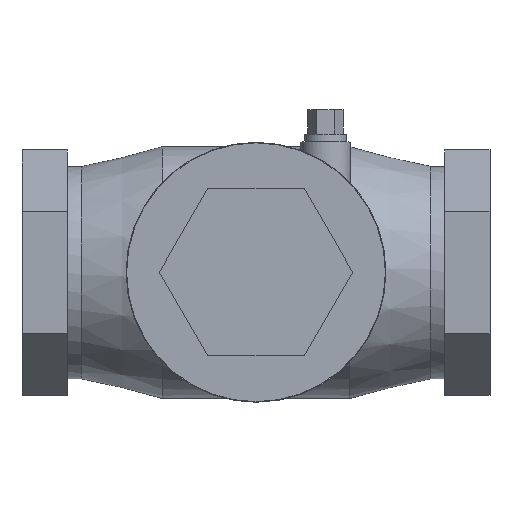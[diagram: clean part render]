
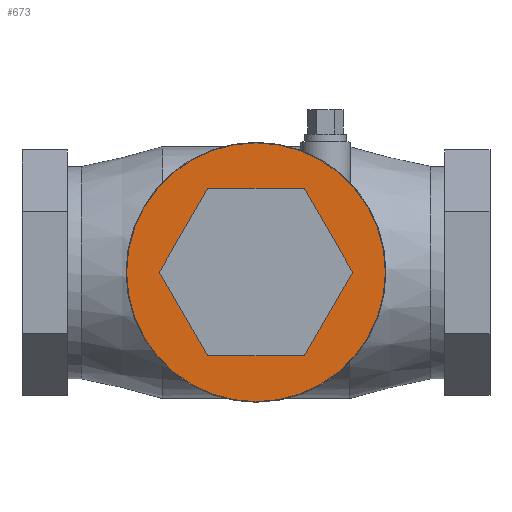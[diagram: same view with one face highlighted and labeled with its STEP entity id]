
A CAD part, top view. The second image highlights one B-rep face of the part: STEP entity #673.
In plain terms, the highlighted planar face has unit normal (0, 0, 1).
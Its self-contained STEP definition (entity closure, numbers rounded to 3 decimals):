
#673 = ADVANCED_FACE('',(#674,#714),#687,.T.);
#674 = FACE_BOUND('',#675,.T.);
#675 = EDGE_LOOP('',(#676));
#676 = ORIENTED_EDGE('',*,*,#677,.F.);
#677 = EDGE_CURVE('',#678,#678,#680,.T.);
#678 = VERTEX_POINT('',#679);
#679 = CARTESIAN_POINT('',(3.665,0.,2.238));
#680 = SURFACE_CURVE('',#681,(#686,#702),.PCURVE_S1.);
#681 = CIRCLE('',#682,1.305);
#682 = AXIS2_PLACEMENT_3D('',#683,#684,#685);
#683 = CARTESIAN_POINT('',(2.36,0.,2.238));
#684 = DIRECTION('',(0.,0.,-1.));
#685 = DIRECTION('',(1.,0.,0.));
#686 = PCURVE('',#687,#692);
#687 = PLANE('',#688);
#688 = AXIS2_PLACEMENT_3D('',#689,#690,#691);
#689 = CARTESIAN_POINT('',(2.36,0.,2.238));
#690 = DIRECTION('',(0.,0.,1.));
#691 = DIRECTION('',(1.,0.,-0.));
#692 = DEFINITIONAL_REPRESENTATION('',(#693),#701);
#693 = ( BOUNDED_CURVE() B_SPLINE_CURVE(2,(#694,#695,#696,#697,#698,#699
,#700),.UNSPECIFIED.,.T.,.F.) B_SPLINE_CURVE_WITH_KNOTS((1,2,2,2,2,1),(
    -2.094,0.,2.094,4.189,6.283,
8.378),.UNSPECIFIED.) CURVE() GEOMETRIC_REPRESENTATION_ITEM() 
RATIONAL_B_SPLINE_CURVE((1.,0.5,1.,0.5,1.,0.5,1.)) REPRESENTATION_ITEM(
  '') );
#694 = CARTESIAN_POINT('',(1.305,0.));
#695 = CARTESIAN_POINT('',(1.305,-2.26));
#696 = CARTESIAN_POINT('',(-0.653,-1.13));
#697 = CARTESIAN_POINT('',(-2.61,0.));
#698 = CARTESIAN_POINT('',(-0.653,1.13));
#699 = CARTESIAN_POINT('',(1.305,2.26));
#700 = CARTESIAN_POINT('',(1.305,0.));
#701 = ( GEOMETRIC_REPRESENTATION_CONTEXT(2) 
PARAMETRIC_REPRESENTATION_CONTEXT() REPRESENTATION_CONTEXT('2D SPACE',''
  ) );
#702 = PCURVE('',#703,#708);
#703 = CYLINDRICAL_SURFACE('',#704,1.305);
#704 = AXIS2_PLACEMENT_3D('',#705,#706,#707);
#705 = CARTESIAN_POINT('',(2.36,0.,2.013));
#706 = DIRECTION('',(0.,0.,1.));
#707 = DIRECTION('',(1.,0.,-0.));
#708 = DEFINITIONAL_REPRESENTATION('',(#709),#713);
#709 = LINE('',#710,#711);
#710 = CARTESIAN_POINT('',(6.283,0.225));
#711 = VECTOR('',#712,1.);
#712 = DIRECTION('',(-1.,0.));
#713 = ( GEOMETRIC_REPRESENTATION_CONTEXT(2) 
PARAMETRIC_REPRESENTATION_CONTEXT() REPRESENTATION_CONTEXT('2D SPACE',''
  ) );
#714 = FACE_BOUND('',#715,.T.);
#715 = EDGE_LOOP('',(#716,#746,#774,#802,#830,#858));
#716 = ORIENTED_EDGE('',*,*,#717,.F.);
#717 = EDGE_CURVE('',#718,#720,#722,.T.);
#718 = VERTEX_POINT('',#719);
#719 = CARTESIAN_POINT('',(1.873,-0.844,2.238));
#720 = VERTEX_POINT('',#721);
#721 = CARTESIAN_POINT('',(2.847,-0.844,2.238));
#722 = SURFACE_CURVE('',#723,(#727,#734),.PCURVE_S1.);
#723 = LINE('',#724,#725);
#724 = CARTESIAN_POINT('',(1.873,-0.844,2.238));
#725 = VECTOR('',#726,1.);
#726 = DIRECTION('',(1.,0.,0.));
#727 = PCURVE('',#687,#728);
#728 = DEFINITIONAL_REPRESENTATION('',(#729),#733);
#729 = LINE('',#730,#731);
#730 = CARTESIAN_POINT('',(-0.487,-0.844));
#731 = VECTOR('',#732,1.);
#732 = DIRECTION('',(1.,0.));
#733 = ( GEOMETRIC_REPRESENTATION_CONTEXT(2) 
PARAMETRIC_REPRESENTATION_CONTEXT() REPRESENTATION_CONTEXT('2D SPACE',''
  ) );
#734 = PCURVE('',#735,#740);
#735 = PLANE('',#736);
#736 = AXIS2_PLACEMENT_3D('',#737,#738,#739);
#737 = CARTESIAN_POINT('',(2.36,-0.844,2.238));
#738 = DIRECTION('',(0.,-1.,0.));
#739 = DIRECTION('',(1.,0.,0.));
#740 = DEFINITIONAL_REPRESENTATION('',(#741),#745);
#741 = LINE('',#742,#743);
#742 = CARTESIAN_POINT('',(-0.487,0.));
#743 = VECTOR('',#744,1.);
#744 = DIRECTION('',(1.,0.));
#745 = ( GEOMETRIC_REPRESENTATION_CONTEXT(2) 
PARAMETRIC_REPRESENTATION_CONTEXT() REPRESENTATION_CONTEXT('2D SPACE',''
  ) );
#746 = ORIENTED_EDGE('',*,*,#747,.F.);
#747 = EDGE_CURVE('',#748,#718,#750,.T.);
#748 = VERTEX_POINT('',#749);
#749 = CARTESIAN_POINT('',(1.385,0.,2.238));
#750 = SURFACE_CURVE('',#751,(#755,#762),.PCURVE_S1.);
#751 = LINE('',#752,#753);
#752 = CARTESIAN_POINT('',(1.385,0.,2.238));
#753 = VECTOR('',#754,1.);
#754 = DIRECTION('',(0.5,-0.866,0.));
#755 = PCURVE('',#687,#756);
#756 = DEFINITIONAL_REPRESENTATION('',(#757),#761);
#757 = LINE('',#758,#759);
#758 = CARTESIAN_POINT('',(-0.975,0.));
#759 = VECTOR('',#760,1.);
#760 = DIRECTION('',(0.5,-0.866));
#761 = ( GEOMETRIC_REPRESENTATION_CONTEXT(2) 
PARAMETRIC_REPRESENTATION_CONTEXT() REPRESENTATION_CONTEXT('2D SPACE',''
  ) );
#762 = PCURVE('',#763,#768);
#763 = PLANE('',#764);
#764 = AXIS2_PLACEMENT_3D('',#765,#766,#767);
#765 = CARTESIAN_POINT('',(1.629,-0.422,2.238));
#766 = DIRECTION('',(-0.866,-0.5,0.));
#767 = DIRECTION('',(0.5,-0.866,0.));
#768 = DEFINITIONAL_REPRESENTATION('',(#769),#773);
#769 = LINE('',#770,#771);
#770 = CARTESIAN_POINT('',(-0.487,0.));
#771 = VECTOR('',#772,1.);
#772 = DIRECTION('',(1.,0.));
#773 = ( GEOMETRIC_REPRESENTATION_CONTEXT(2) 
PARAMETRIC_REPRESENTATION_CONTEXT() REPRESENTATION_CONTEXT('2D SPACE',''
  ) );
#774 = ORIENTED_EDGE('',*,*,#775,.F.);
#775 = EDGE_CURVE('',#776,#748,#778,.T.);
#776 = VERTEX_POINT('',#777);
#777 = CARTESIAN_POINT('',(1.873,0.844,2.238));
#778 = SURFACE_CURVE('',#779,(#783,#790),.PCURVE_S1.);
#779 = LINE('',#780,#781);
#780 = CARTESIAN_POINT('',(1.873,0.844,2.238));
#781 = VECTOR('',#782,1.);
#782 = DIRECTION('',(-0.5,-0.866,0.));
#783 = PCURVE('',#687,#784);
#784 = DEFINITIONAL_REPRESENTATION('',(#785),#789);
#785 = LINE('',#786,#787);
#786 = CARTESIAN_POINT('',(-0.487,0.844));
#787 = VECTOR('',#788,1.);
#788 = DIRECTION('',(-0.5,-0.866));
#789 = ( GEOMETRIC_REPRESENTATION_CONTEXT(2) 
PARAMETRIC_REPRESENTATION_CONTEXT() REPRESENTATION_CONTEXT('2D SPACE',''
  ) );
#790 = PCURVE('',#791,#796);
#791 = PLANE('',#792);
#792 = AXIS2_PLACEMENT_3D('',#793,#794,#795);
#793 = CARTESIAN_POINT('',(1.629,0.422,2.238));
#794 = DIRECTION('',(-0.866,0.5,0.));
#795 = DIRECTION('',(-0.5,-0.866,0.));
#796 = DEFINITIONAL_REPRESENTATION('',(#797),#801);
#797 = LINE('',#798,#799);
#798 = CARTESIAN_POINT('',(-0.487,0.));
#799 = VECTOR('',#800,1.);
#800 = DIRECTION('',(1.,0.));
#801 = ( GEOMETRIC_REPRESENTATION_CONTEXT(2) 
PARAMETRIC_REPRESENTATION_CONTEXT() REPRESENTATION_CONTEXT('2D SPACE',''
  ) );
#802 = ORIENTED_EDGE('',*,*,#803,.F.);
#803 = EDGE_CURVE('',#804,#776,#806,.T.);
#804 = VERTEX_POINT('',#805);
#805 = CARTESIAN_POINT('',(2.847,0.844,2.238));
#806 = SURFACE_CURVE('',#807,(#811,#818),.PCURVE_S1.);
#807 = LINE('',#808,#809);
#808 = CARTESIAN_POINT('',(2.847,0.844,2.238));
#809 = VECTOR('',#810,1.);
#810 = DIRECTION('',(-1.,0.,0.));
#811 = PCURVE('',#687,#812);
#812 = DEFINITIONAL_REPRESENTATION('',(#813),#817);
#813 = LINE('',#814,#815);
#814 = CARTESIAN_POINT('',(0.487,0.844));
#815 = VECTOR('',#816,1.);
#816 = DIRECTION('',(-1.,0.));
#817 = ( GEOMETRIC_REPRESENTATION_CONTEXT(2) 
PARAMETRIC_REPRESENTATION_CONTEXT() REPRESENTATION_CONTEXT('2D SPACE',''
  ) );
#818 = PCURVE('',#819,#824);
#819 = PLANE('',#820);
#820 = AXIS2_PLACEMENT_3D('',#821,#822,#823);
#821 = CARTESIAN_POINT('',(2.36,0.844,2.238));
#822 = DIRECTION('',(0.,1.,0.));
#823 = DIRECTION('',(-1.,0.,0.));
#824 = DEFINITIONAL_REPRESENTATION('',(#825),#829);
#825 = LINE('',#826,#827);
#826 = CARTESIAN_POINT('',(-0.487,0.));
#827 = VECTOR('',#828,1.);
#828 = DIRECTION('',(1.,0.));
#829 = ( GEOMETRIC_REPRESENTATION_CONTEXT(2) 
PARAMETRIC_REPRESENTATION_CONTEXT() REPRESENTATION_CONTEXT('2D SPACE',''
  ) );
#830 = ORIENTED_EDGE('',*,*,#831,.F.);
#831 = EDGE_CURVE('',#832,#804,#834,.T.);
#832 = VERTEX_POINT('',#833);
#833 = CARTESIAN_POINT('',(3.335,0.,2.238));
#834 = SURFACE_CURVE('',#835,(#839,#846),.PCURVE_S1.);
#835 = LINE('',#836,#837);
#836 = CARTESIAN_POINT('',(3.335,0.,2.238));
#837 = VECTOR('',#838,1.);
#838 = DIRECTION('',(-0.5,0.866,0.));
#839 = PCURVE('',#687,#840);
#840 = DEFINITIONAL_REPRESENTATION('',(#841),#845);
#841 = LINE('',#842,#843);
#842 = CARTESIAN_POINT('',(0.975,0.));
#843 = VECTOR('',#844,1.);
#844 = DIRECTION('',(-0.5,0.866));
#845 = ( GEOMETRIC_REPRESENTATION_CONTEXT(2) 
PARAMETRIC_REPRESENTATION_CONTEXT() REPRESENTATION_CONTEXT('2D SPACE',''
  ) );
#846 = PCURVE('',#847,#852);
#847 = PLANE('',#848);
#848 = AXIS2_PLACEMENT_3D('',#849,#850,#851);
#849 = CARTESIAN_POINT('',(3.091,0.422,2.238));
#850 = DIRECTION('',(0.866,0.5,0.));
#851 = DIRECTION('',(-0.5,0.866,0.));
#852 = DEFINITIONAL_REPRESENTATION('',(#853),#857);
#853 = LINE('',#854,#855);
#854 = CARTESIAN_POINT('',(-0.487,0.));
#855 = VECTOR('',#856,1.);
#856 = DIRECTION('',(1.,0.));
#857 = ( GEOMETRIC_REPRESENTATION_CONTEXT(2) 
PARAMETRIC_REPRESENTATION_CONTEXT() REPRESENTATION_CONTEXT('2D SPACE',''
  ) );
#858 = ORIENTED_EDGE('',*,*,#859,.F.);
#859 = EDGE_CURVE('',#720,#832,#860,.T.);
#860 = SURFACE_CURVE('',#861,(#865,#872),.PCURVE_S1.);
#861 = LINE('',#862,#863);
#862 = CARTESIAN_POINT('',(2.847,-0.844,2.238));
#863 = VECTOR('',#864,1.);
#864 = DIRECTION('',(0.5,0.866,0.));
#865 = PCURVE('',#687,#866);
#866 = DEFINITIONAL_REPRESENTATION('',(#867),#871);
#867 = LINE('',#868,#869);
#868 = CARTESIAN_POINT('',(0.487,-0.844));
#869 = VECTOR('',#870,1.);
#870 = DIRECTION('',(0.5,0.866));
#871 = ( GEOMETRIC_REPRESENTATION_CONTEXT(2) 
PARAMETRIC_REPRESENTATION_CONTEXT() REPRESENTATION_CONTEXT('2D SPACE',''
  ) );
#872 = PCURVE('',#873,#878);
#873 = PLANE('',#874);
#874 = AXIS2_PLACEMENT_3D('',#875,#876,#877);
#875 = CARTESIAN_POINT('',(3.091,-0.422,2.238));
#876 = DIRECTION('',(0.866,-0.5,0.));
#877 = DIRECTION('',(0.5,0.866,0.));
#878 = DEFINITIONAL_REPRESENTATION('',(#879),#883);
#879 = LINE('',#880,#881);
#880 = CARTESIAN_POINT('',(-0.487,0.));
#881 = VECTOR('',#882,1.);
#882 = DIRECTION('',(1.,0.));
#883 = ( GEOMETRIC_REPRESENTATION_CONTEXT(2) 
PARAMETRIC_REPRESENTATION_CONTEXT() REPRESENTATION_CONTEXT('2D SPACE',''
  ) );
